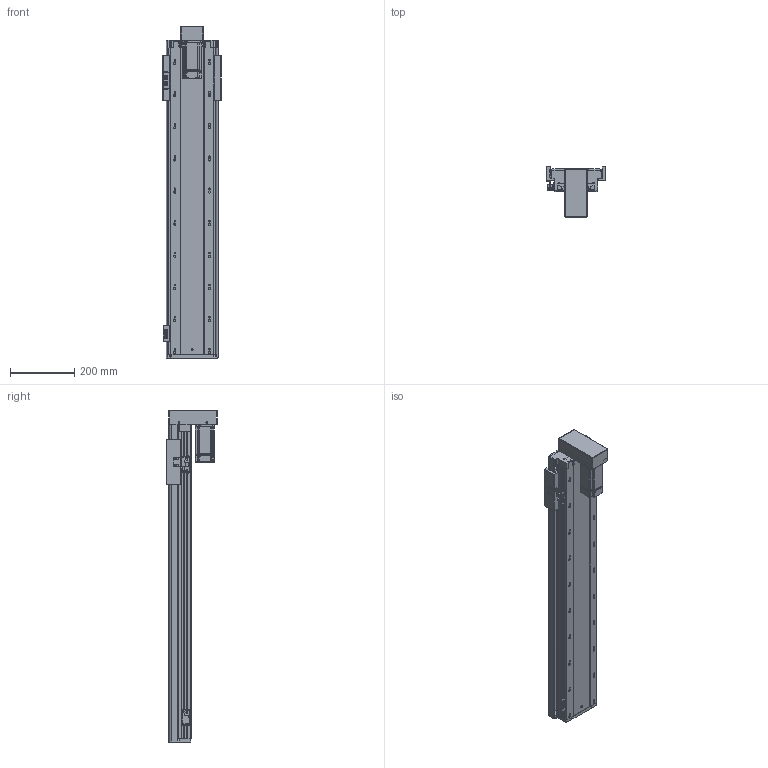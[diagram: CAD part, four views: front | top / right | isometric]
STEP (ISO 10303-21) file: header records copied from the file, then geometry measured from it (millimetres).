
FILE_DESCRIPTION (( 'STEP AP203' ), '1' );
FILE_NAME ('RY140FB-L2010-300-BK.SLDASM_750.step', '2021-02-23T02:28:59', ( '盈信电脑' ), ( '东莞市道滘镇水果街19号' ), 'SwSTEP 2.0', 'SolidWorks 2012', '' );
FILE_SCHEMA (( 'CONFIG_CONTROL_DESIGN' ));
Length unit declared in the file: millimetre
Products named in the file (17): RY140FB-覜茼え; RY140FB-L2010-300-BK.SLDASM_750; RY140-674嫖萇耀輸; 覜茼ん674; RY140直线电机感应器674光电安装座; RY140FB-20佪裝臏賑輸; RY140FB-狟殏萇儂假蚾啣; RY140狟殏萇儂欶; RY140FB-300蛌殏奻裔啣-BK_750; RY140FB-转折电机端支撑座(7002); 侂狟400W侜督萇儂; 滅袉蝶18-10; 15; 滅袉蝶18-24; RY140FB-綴裔啣; RY140FB-300蛌殏倰第菁釱-BK_750
Assembly tree (20 placements, depth 3):
  RY140FB-L2010-300-BK.SLDASM_750
    RY140FB-300蛌殏倰第菁釱-BK_750
    RY140FB-綴裔啣
    滅袉蝶18-24  x2
    滅袉蝶18-10
    RY140FB-转折电机端支撑座(7002)
    侂狟400W侜督萇儂
      15
    RY140狟殏萇儂欶
    RY140FB-狟殏萇儂假蚾啣
    RY140FB-20佪裝臏賑輸
    RY140FB-300蛌殏奻裔啣-BK_750
    RY140-674嫖萇耀輸
      覜茼ん674  x2
      RY140直线电机感应器674光电安装座
    RY140-674嫖萇耀輸
      RY140直线电机感应器674光电安装座
      覜茼ん674
    RY140FB-覜茼え
Bounding box: 183 x 156 x 1034 mm (x, y, z)
Volume: 4040632.4 mm3; surface area: 1328516.5 mm2
Topology: 17 solids, 17 shells, 1818 faces, 5021 edges, 3195 vertices
Faces by surface type: cylinder 897, plane 723, cone 170, bspline 28
Entity records: 55363 total; most frequent: CARTESIAN_POINT 11357, DIRECTION 8906, ORIENTED_EDGE 8750, EDGE_CURVE 4375, AXIS2_PLACEMENT_3D 3220, VERTEX_POINT 2863, LINE 2466, VECTOR 2466
